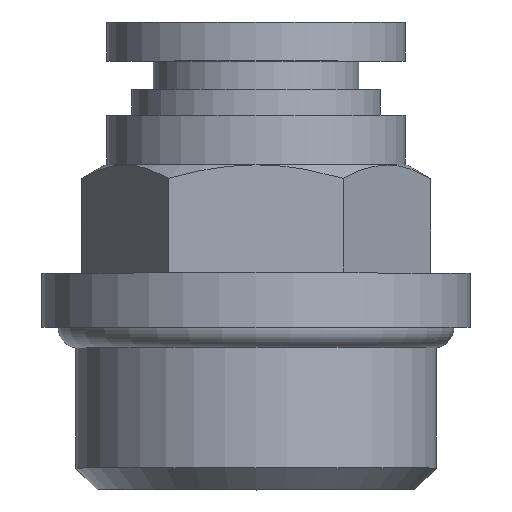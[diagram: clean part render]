
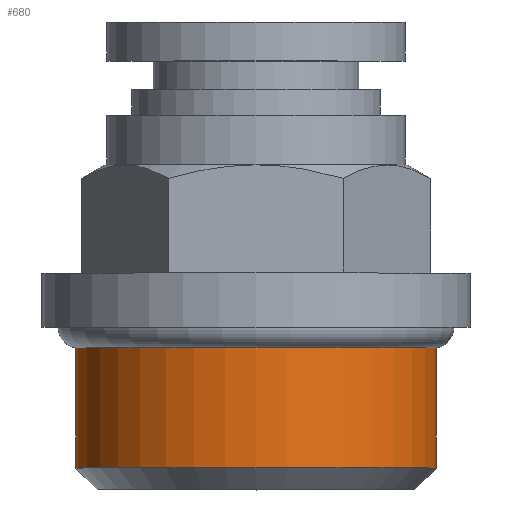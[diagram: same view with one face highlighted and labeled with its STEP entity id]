
A CAD part, top view. The second image highlights one B-rep face of the part: STEP entity #680.
In plain terms, the highlighted cylindrical face has radius 8.331 mm (diameter 16.662 mm), a full revolution.
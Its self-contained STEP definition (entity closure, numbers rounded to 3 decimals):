
#42=CYLINDRICAL_SURFACE('',#755,8.331);
#85=FACE_OUTER_BOUND('',#127,.T.);
#127=EDGE_LOOP('',(#489,#490,#491,#492,#493,#494));
#172=LINE('',#1065,#208);
#208=VECTOR('',#869,8.331);
#252=CIRCLE('',#753,8.331);
#253=CIRCLE('',#754,8.331);
#254=CIRCLE('',#756,8.331);
#255=CIRCLE('',#757,8.331);
#295=VERTEX_POINT('',#1058);
#296=VERTEX_POINT('',#1060);
#297=VERTEX_POINT('',#1064);
#298=VERTEX_POINT('',#1066);
#372=EDGE_CURVE('',#295,#296,#252,.T.);
#373=EDGE_CURVE('',#296,#295,#253,.T.);
#374=EDGE_CURVE('',#296,#297,#172,.T.);
#375=EDGE_CURVE('',#297,#298,#254,.T.);
#376=EDGE_CURVE('',#298,#297,#255,.T.);
#489=ORIENTED_EDGE('',*,*,#372,.F.);
#490=ORIENTED_EDGE('',*,*,#373,.F.);
#491=ORIENTED_EDGE('',*,*,#374,.T.);
#492=ORIENTED_EDGE('',*,*,#375,.T.);
#493=ORIENTED_EDGE('',*,*,#376,.T.);
#494=ORIENTED_EDGE('',*,*,#374,.F.);
#680=ADVANCED_FACE('',(#85),#42,.T.);
#753=AXIS2_PLACEMENT_3D('',#1061,#863,#864);
#754=AXIS2_PLACEMENT_3D('',#1062,#865,#866);
#755=AXIS2_PLACEMENT_3D('',#1063,#867,#868);
#756=AXIS2_PLACEMENT_3D('',#1067,#870,#871);
#757=AXIS2_PLACEMENT_3D('',#1068,#872,#873);
#863=DIRECTION('center_axis',(0.,-1.,0.));
#864=DIRECTION('ref_axis',(-1.,0.,0.));
#865=DIRECTION('center_axis',(0.,-1.,0.));
#866=DIRECTION('ref_axis',(-1.,0.,0.));
#867=DIRECTION('center_axis',(0.,-1.,0.));
#868=DIRECTION('ref_axis',(1.,0.,0.));
#869=DIRECTION('',(0.,1.,0.));
#870=DIRECTION('center_axis',(0.,-1.,0.));
#871=DIRECTION('ref_axis',(1.,0.,0.));
#872=DIRECTION('center_axis',(0.,-1.,0.));
#873=DIRECTION('ref_axis',(1.,0.,0.));
#1058=CARTESIAN_POINT('',(8.331,1.,0.));
#1060=CARTESIAN_POINT('',(-8.331,1.,0.));
#1061=CARTESIAN_POINT('Origin',(0.,1.,0.));
#1062=CARTESIAN_POINT('Origin',(0.,1.,0.));
#1063=CARTESIAN_POINT('Origin',(0.,3.75,0.));
#1064=CARTESIAN_POINT('',(-8.331,6.559,0.));
#1065=CARTESIAN_POINT('',(-8.331,3.75,0.));
#1066=CARTESIAN_POINT('',(0.,6.559,8.331));
#1067=CARTESIAN_POINT('Origin',(0.,6.559,0.));
#1068=CARTESIAN_POINT('Origin',(0.,6.559,0.));
